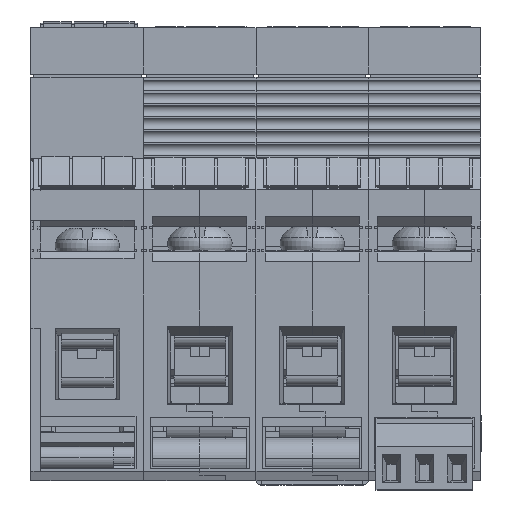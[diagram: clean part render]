
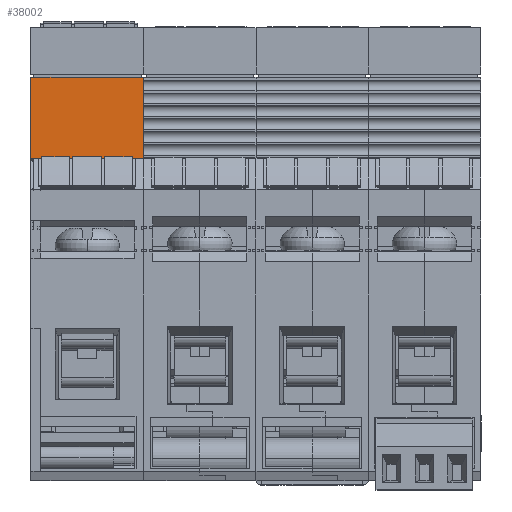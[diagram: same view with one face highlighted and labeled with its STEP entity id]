
A CAD part, top view. The second image highlights one B-rep face of the part: STEP entity #38002.
In plain terms, the highlighted planar face has unit normal (0, 0, 1).
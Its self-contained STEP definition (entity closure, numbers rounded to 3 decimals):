
#509 = AXIS2_PLACEMENT_3D ( 'NONE', #47473, #36980, #107190 ) ;
#2549 = CARTESIAN_POINT ( 'NONE',  ( 0., 33., 22.5 ) ) ;
#2995 = ORIENTED_EDGE ( 'NONE', *, *, #48204, .F. ) ;
#9218 = CARTESIAN_POINT ( 'NONE',  ( -17.5, 45.6, 22.5 ) ) ;
#10138 = VECTOR ( 'NONE', #36542, 1000. ) ;
#14134 = DIRECTION ( 'NONE',  ( 1., 0., 0. ) ) ;
#27140 = ORIENTED_EDGE ( 'NONE', *, *, #109078, .T. ) ;
#28838 = CARTESIAN_POINT ( 'NONE',  ( -17.5, 33., 22.5 ) ) ;
#33102 = VERTEX_POINT ( 'NONE', #86904 ) ;
#34345 = EDGE_CURVE ( 'NONE', #33102, #92998, #76818, .T. ) ;
#36164 = EDGE_LOOP ( 'NONE', ( #121940, #27140, #52099, #2995 ) ) ;
#36542 = DIRECTION ( 'NONE',  ( 0., -1., 0. ) ) ;
#36980 = DIRECTION ( 'NONE',  ( 0., 0., 1. ) ) ;
#38002 = ADVANCED_FACE ( 'NONE', ( #109938 ), #126043, .T. ) ;
#42530 = VECTOR ( 'NONE', #14134, 1000. ) ;
#43366 = DIRECTION ( 'NONE',  ( 0., -1., 0. ) ) ;
#47473 = CARTESIAN_POINT ( 'NONE',  ( -17.5, 33., 22.5 ) ) ;
#48204 = EDGE_CURVE ( 'NONE', #117794, #92998, #88103, .T. ) ;
#49404 = LINE ( 'NONE', #85870, #10138 ) ;
#52099 = ORIENTED_EDGE ( 'NONE', *, *, #34345, .T. ) ;
#58079 = VECTOR ( 'NONE', #118337, 1000. ) ;
#64770 = VERTEX_POINT ( 'NONE', #9218 ) ;
#66000 = LINE ( 'NONE', #74534, #42530 ) ;
#74534 = CARTESIAN_POINT ( 'NONE',  ( -17.5, 45.6, 22.5 ) ) ;
#76818 = LINE ( 'NONE', #28838, #58079 ) ;
#78733 = VECTOR ( 'NONE', #43366, 1000. ) ;
#85870 = CARTESIAN_POINT ( 'NONE',  ( -17.5, 33., 22.5 ) ) ;
#86904 = CARTESIAN_POINT ( 'NONE',  ( -17.5, 33., 22.5 ) ) ;
#88103 = LINE ( 'NONE', #2549, #78733 ) ;
#92998 = VERTEX_POINT ( 'NONE', #115818 ) ;
#99838 = EDGE_CURVE ( 'NONE', #64770, #117794, #66000, .T. ) ;
#107190 = DIRECTION ( 'NONE',  ( 1., 0., 0. ) ) ;
#109078 = EDGE_CURVE ( 'NONE', #64770, #33102, #49404, .T. ) ;
#109938 = FACE_OUTER_BOUND ( 'NONE', #36164, .T. ) ;
#115818 = CARTESIAN_POINT ( 'NONE',  ( 0., 33., 22.5 ) ) ;
#117794 = VERTEX_POINT ( 'NONE', #129248 ) ;
#118337 = DIRECTION ( 'NONE',  ( 1., 0., 0. ) ) ;
#121940 = ORIENTED_EDGE ( 'NONE', *, *, #99838, .F. ) ;
#126043 = PLANE ( 'NONE',  #509 ) ;
#129248 = CARTESIAN_POINT ( 'NONE',  ( 0., 45.6, 22.5 ) ) ;
